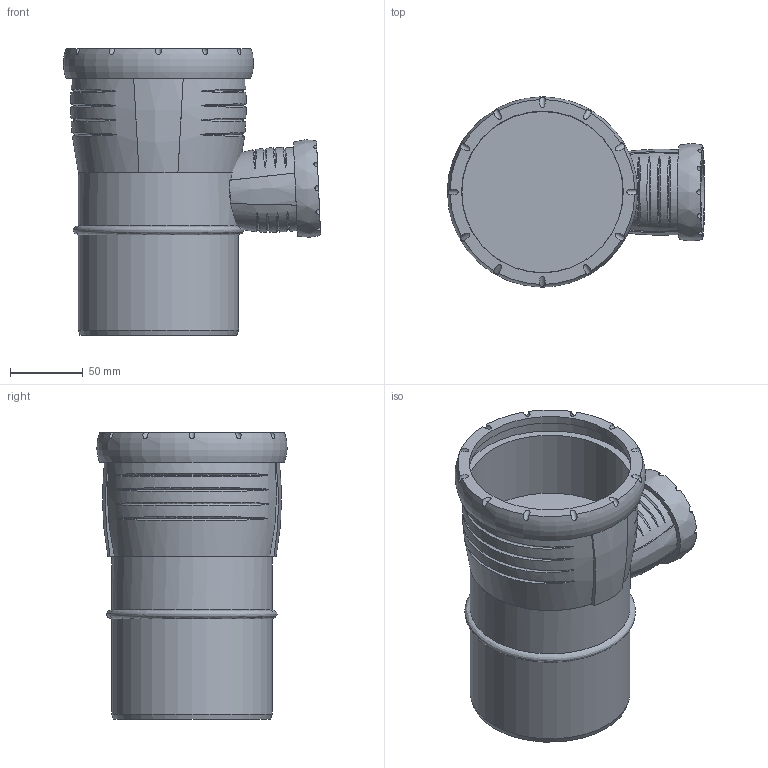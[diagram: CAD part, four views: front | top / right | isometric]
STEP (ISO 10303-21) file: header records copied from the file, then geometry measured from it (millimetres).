
FILE_DESCRIPTION(/* description */ (''),/* implementation_level */ '2;1');
FILE_NAME(/* name */ 'H:\Geberit-Teile\Export\Abzweig PP\stp\393547.stp',/* time_stamp */ '2017-02-13T13:19:16+01:00',/* author */ ('seihe2'),/* organization */ (''),/* preprocessor_version */ 'ST-DEVELOPER v15.2',/* originating_system */ 'Autodesk Inventor 2014',/* authorisation */ '');
FILE_SCHEMA (('AUTOMOTIVE_DESIGN { 1 0 10303 214 3 1 1 }'));
Length unit declared in the file: millimetre
Products named in the file (1): 393547
Bounding box: 177.04 x 130.89 x 197 mm (x, y, z)
Volume: 981702.7 mm3; surface area: 204610.9 mm2
Topology: 5 solids, 5 shells, 108 faces, 250 edges, 176 vertices
Faces by surface type: bspline 46, cylinder 41, plane 19, cone 1, torus 1
Full cylindrical faces by diameter (mm): 36.243 x1, 50.7 x1, 51 x1, 60.1 x1, 90 x1, 101.2 x1, 110.2 x3, 111 x1, 111.3 x1, 121.5 x1
Entity records: 7681 total; most frequent: CARTESIAN_POINT 5458, ORIENTED_EDGE 464, DIRECTION 333, EDGE_CURVE 231, VERTEX_POINT 171, AXIS2_PLACEMENT_3D 166, EDGE_LOOP 150, B_SPLINE_CURVE_WITH_KNOTS 126
